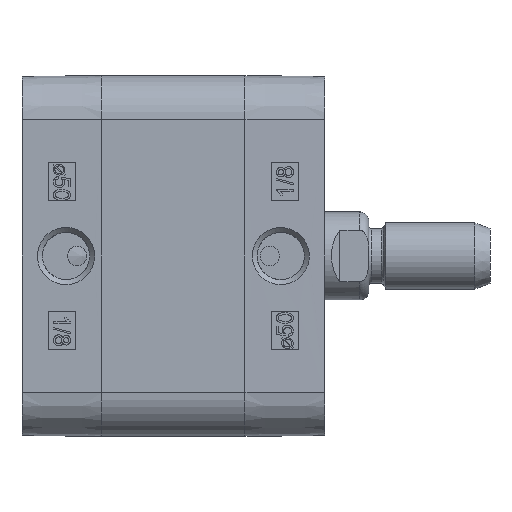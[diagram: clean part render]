
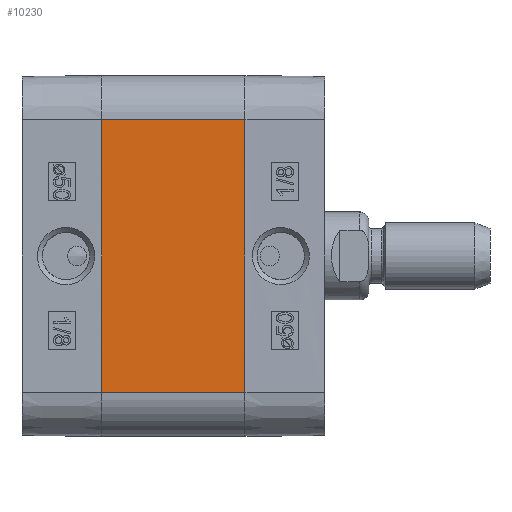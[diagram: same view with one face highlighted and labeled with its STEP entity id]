
A CAD part, left-side view. The second image highlights one B-rep face of the part: STEP entity #10230.
In plain terms, the highlighted planar face has unit normal (-1, 0, 0).
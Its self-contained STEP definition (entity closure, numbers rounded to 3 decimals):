
#5232=CARTESIAN_POINT('',(-32.75,-26.0,24.75));
#5233=VERTEX_POINT('',#5232);
#5240=CARTESIAN_POINT('',(-32.75,-26.0,-24.75));
#5241=VERTEX_POINT('',#5240);
#5242=CARTESIAN_POINT('',(-32.75,-26.0,-24.75));
#5243=DIRECTION('',(0.0,0.0,1.0));
#5244=VECTOR('',#5243,49.5);
#5245=LINE('',#5242,#5244);
#5246=EDGE_CURVE('',#5241,#5233,#5245,.T.);
#10188=CARTESIAN_POINT('',(-32.75,0.0,-24.75));
#10189=VERTEX_POINT('',#10188);
#10190=CARTESIAN_POINT('',(-32.75,0.0,-24.75));
#10191=DIRECTION('',(0.0,-1.0,0.0));
#10192=VECTOR('',#10191,26.0);
#10193=LINE('',#10190,#10192);
#10194=EDGE_CURVE('',#10189,#5241,#10193,.T.);
#10207=CARTESIAN_POINT('',(-32.75,0.0,-24.75));
#10208=DIRECTION('',(-1.0,0.0,0.0));
#10209=DIRECTION('',(0.0,0.0,1.0));
#10210=AXIS2_PLACEMENT_3D('',#10207,#10208,#10209);
#10211=PLANE('',#10210);
#10212=ORIENTED_EDGE('',*,*,#5246,.T.);
#10213=CARTESIAN_POINT('',(-32.75,0.0,24.75));
#10214=VERTEX_POINT('',#10213);
#10215=CARTESIAN_POINT('',(-32.75,0.0,24.75));
#10216=DIRECTION('',(0.0,-1.0,0.0));
#10217=VECTOR('',#10216,26.0);
#10218=LINE('',#10215,#10217);
#10219=EDGE_CURVE('',#10214,#5233,#10218,.T.);
#10220=ORIENTED_EDGE('',*,*,#10219,.F.);
#10221=CARTESIAN_POINT('',(-32.75,0.0,-24.75));
#10222=DIRECTION('',(0.0,0.0,1.0));
#10223=VECTOR('',#10222,49.5);
#10224=LINE('',#10221,#10223);
#10225=EDGE_CURVE('',#10189,#10214,#10224,.T.);
#10226=ORIENTED_EDGE('',*,*,#10225,.F.);
#10227=ORIENTED_EDGE('',*,*,#10194,.T.);
#10228=EDGE_LOOP('',(#10212,#10220,#10226,#10227));
#10229=FACE_OUTER_BOUND('',#10228,.T.);
#10230=ADVANCED_FACE('',(#10229),#10211,.T.);
